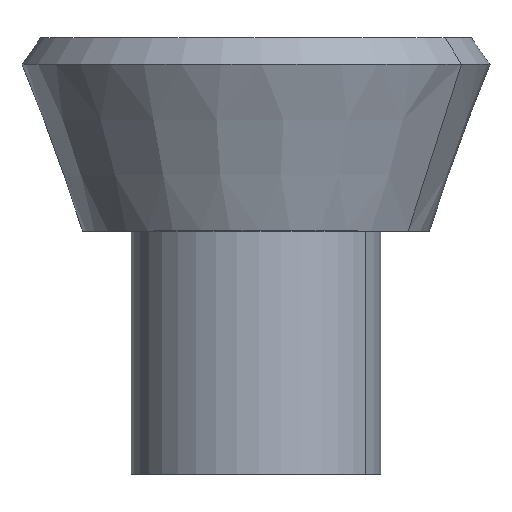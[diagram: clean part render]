
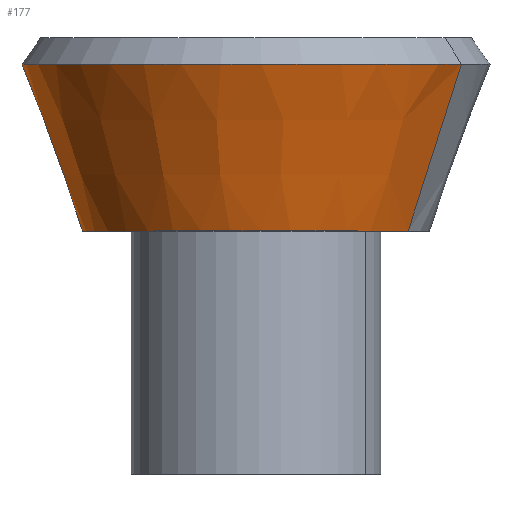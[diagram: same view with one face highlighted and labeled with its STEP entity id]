
A CAD part, top view. The second image highlights one B-rep face of the part: STEP entity #177.
In plain terms, the highlighted conical face has half-angle 20 degrees and reference radius 107 mm.
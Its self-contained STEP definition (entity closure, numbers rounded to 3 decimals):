
#114=CARTESIAN_POINT('Axis2P3D Location',(0.,0.,0.)) ;
#118=CARTESIAN_POINT('Vertex',(93.901,0.,51.299)) ;
#120=CARTESIAN_POINT('Vertex',(-93.901,0.,-51.299)) ;
#147=CARTESIAN_POINT('Axis2P3D Location',(0.,0.,0.)) ;
#152=CARTESIAN_POINT('Line Origine',(110.344,51.479,60.281)) ;
#156=CARTESIAN_POINT('Vertex',(126.788,102.958,69.264)) ;
#159=CARTESIAN_POINT('Axis2P3D Location',(0.,102.958,0.)) ;
#163=CARTESIAN_POINT('Vertex',(-126.788,102.958,-69.264)) ;
#166=CARTESIAN_POINT('Line Origine',(-110.344,51.479,-60.281)) ;
#115=DIRECTION('Axis2P3D Direction',(0.,-1.,0.)) ;
#148=DIRECTION('Axis2P3D Direction',(-0.,1.,-0.)) ;
#149=DIRECTION('Axis2P3D XDirection',(0.878,0.,0.479)) ;
#153=DIRECTION('Vector Direction',(0.3,0.94,0.164)) ;
#160=DIRECTION('Axis2P3D Direction',(0.,1.,-0.)) ;
#167=DIRECTION('Vector Direction',(-0.3,0.94,-0.164)) ;
#116=AXIS2_PLACEMENT_3D('Circle Axis2P3D',#114,#115,$) ;
#150=AXIS2_PLACEMENT_3D('Cone Axis2P3D',#147,#148,#149) ;
#161=AXIS2_PLACEMENT_3D('Circle Axis2P3D',#159,#160,$) ;
#172=ORIENTED_EDGE('',*,*,#122,.F.) ;
#173=ORIENTED_EDGE('',*,*,#158,.T.) ;
#174=ORIENTED_EDGE('',*,*,#165,.T.) ;
#175=ORIENTED_EDGE('',*,*,#170,.F.) ;
#154=VECTOR('Line Direction',#153,1.) ;
#168=VECTOR('Line Direction',#167,1.) ;
#177=ADVANCED_FACE('PartBody',(#176),#151,.T.) ;
#117=CIRCLE('generated circle',#116,107.) ;
#162=CIRCLE('generated circle',#161,144.474) ;
#151=CONICAL_SURFACE('Cone',#150,107.,0.349) ;
#122=EDGE_CURVE('',#119,#121,#117,.T.) ;
#158=EDGE_CURVE('',#119,#157,#155,.T.) ;
#165=EDGE_CURVE('',#157,#164,#162,.F.) ;
#170=EDGE_CURVE('',#121,#164,#169,.T.) ;
#171=EDGE_LOOP('',(#172,#173,#174,#175)) ;
#176=FACE_OUTER_BOUND('',#171,.T.) ;
#155=LINE('Line',#152,#154) ;
#169=LINE('Line',#166,#168) ;
#119=VERTEX_POINT('',#118) ;
#121=VERTEX_POINT('',#120) ;
#157=VERTEX_POINT('',#156) ;
#164=VERTEX_POINT('',#163) ;
